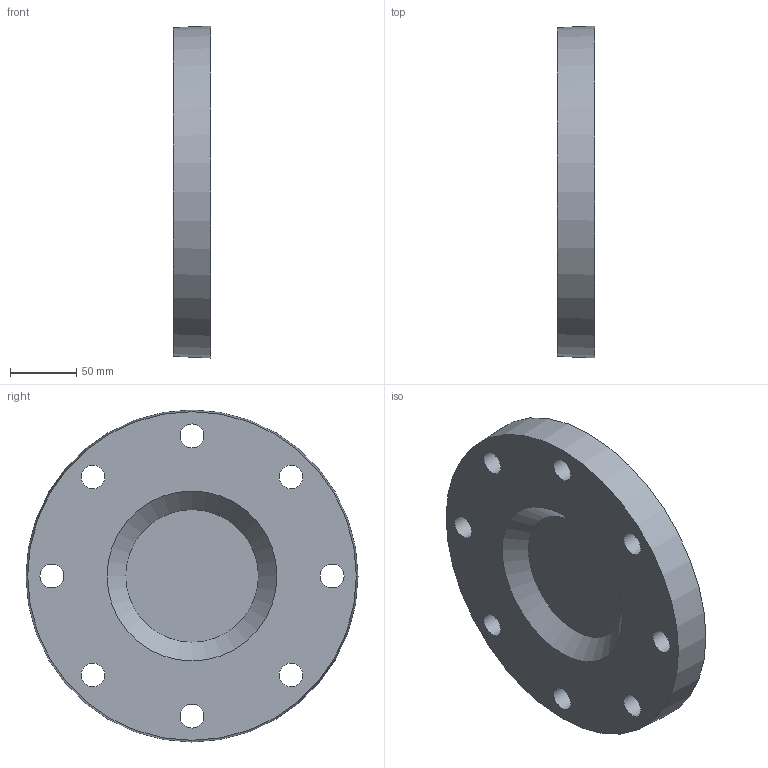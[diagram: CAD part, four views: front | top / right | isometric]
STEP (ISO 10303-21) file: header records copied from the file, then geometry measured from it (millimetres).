
FILE_DESCRIPTION(/* description */ ('PLASSON BLANK FLANGE PVC 140'),/* implementation_level */ '2;1');
FILE_NAME(/* name */ 'C:\Dropbox\KIMPROJECTS-Inventor\99-16-3568-Processing\PVC Catalog 2017\059100\059100140.ipt.stp',/* time_stamp */ '2017-12-07T16:06:53+02:00',/* author */ ('KIM'),/* organization */ (''),/* preprocessor_version */ 'ST-DEVELOPER v15.6',/* originating_system */ 'Autodesk Inventor 2015',/* authorisation */ '');
FILE_SCHEMA (('CONFIG_CONTROL_DESIGN','AUTOMOTIVE_DESIGN { 1 0 10303 214 3 1 1 }'));
Length unit declared in the file: millimetre
Products named in the file (1): 059100140
Bounding box: 28 x 250 x 250 mm (x, y, z)
Volume: 1159504.4 mm3; surface area: 130774.6 mm2
Topology: 1 solids, 1 shells, 25 faces, 48 edges, 32 vertices
Faces by surface type: cylinder 14, plane 9, cone 2
Full cylindrical faces by diameter (mm): 18 x8, 100 x1, 102.5 x1, 105 x1, 107.5 x1, 110 x1, 112.5 x1
Entity records: 630 total; most frequent: DIRECTION 116, CARTESIAN_POINT 90, EDGE_LOOP 64, ORIENTED_EDGE 64, AXIS2_PLACEMENT_3D 58, FACE_BOUND 39, CIRCLE 32, VERTEX_POINT 32
